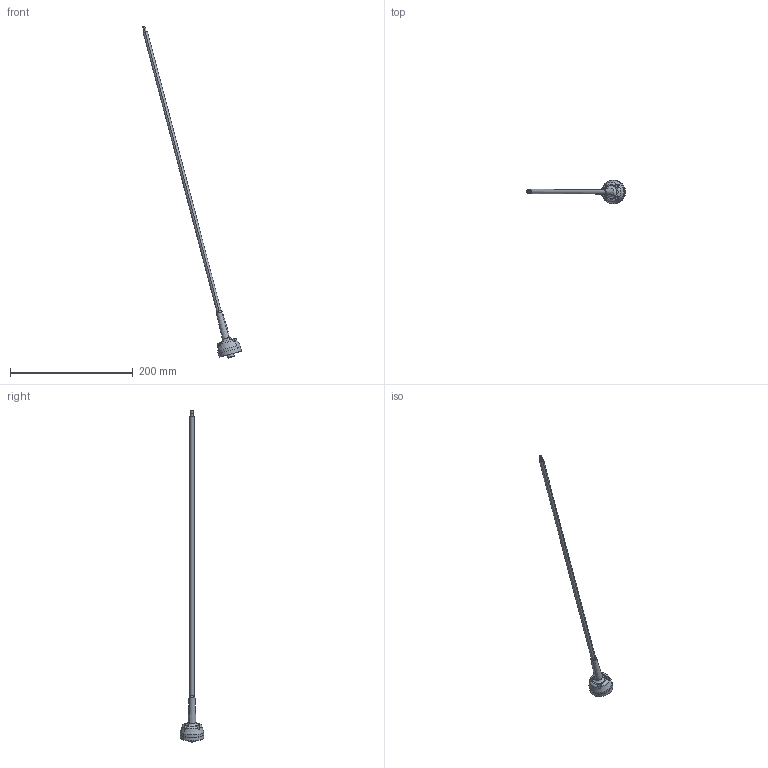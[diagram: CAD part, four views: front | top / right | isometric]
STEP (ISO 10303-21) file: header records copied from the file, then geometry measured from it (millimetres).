
FILE_DESCRIPTION (( 'STEP AP214' ), '1' );
FILE_NAME ('STR SK Sonar Cable.STEP', '2010-02-26T12:23:49', ( 'ST' ), ( 'System Technologies' ), 'SwSTEP 2.0', 'SolidWorks 2008', '' );
FILE_SCHEMA (( 'AUTOMOTIVE_DESIGN' ));
Length unit declared in the file: millimetre
Products named in the file (5): straight connector; STR SK Sonar Cable; 00761 SK Straight Connector; 02015 ST Sonar Cable; 03191 Connector Base
Assembly tree (4 placements, depth 3):
  STR SK Sonar Cable
    02015 ST Sonar Cable
    00761 SK Straight Connector
      03191 Connector Base
      straight connector
Bounding box: 161.55 x 37.97 x 541.65 mm (x, y, z)
Volume: 44526.8 mm3; surface area: 49019.6 mm2
Topology: 11 solids, 11 shells, 178 faces, 380 edges, 236 vertices
Faces by surface type: cylinder 94, plane 38, cone 26, torus 20
Entity records: 5998 total; most frequent: CARTESIAN_POINT 1056, DIRECTION 976, ORIENTED_EDGE 760, AXIS2_PLACEMENT_3D 428, EDGE_CURVE 380, CIRCLE 242, VERTEX_POINT 236, EDGE_LOOP 222
